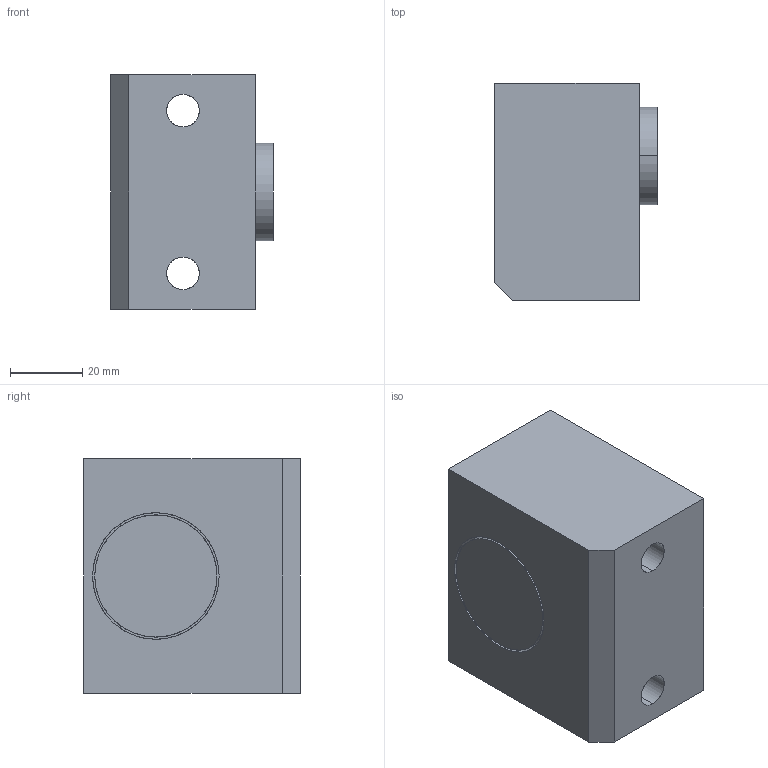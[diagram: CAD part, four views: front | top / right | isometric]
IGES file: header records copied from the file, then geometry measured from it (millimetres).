
Start section: START RECORD GO HERE.
Global section: file name: 751-040065.igs; native system: DASSAULT SYSTEMES CATIA V5 R20 - www.3ds.com; preprocessor: CATIA Version 5 Release 20 ; author: Utente; organization: NB04-ASUS; date: 20200410.202541; units: millimetre
Bounding box: 45 x 60 x 65 mm (x, y, z)
Surface area: 29205.4 mm2 (no closed solid volume)
Topology: 0 solids, 0 shells, 29 faces, 126 edges, 126 vertices
Faces by surface type: revolution 16, extrusion 13
